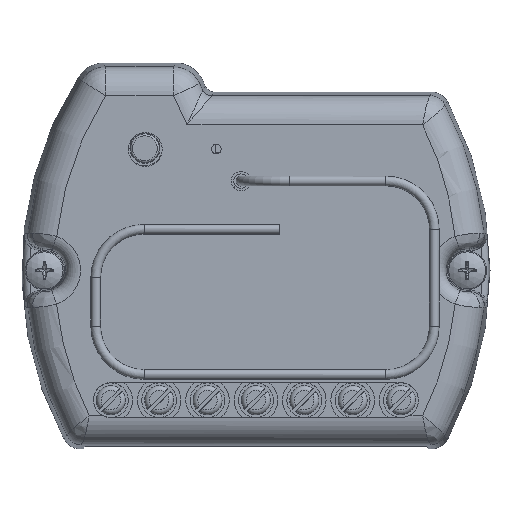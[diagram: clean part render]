
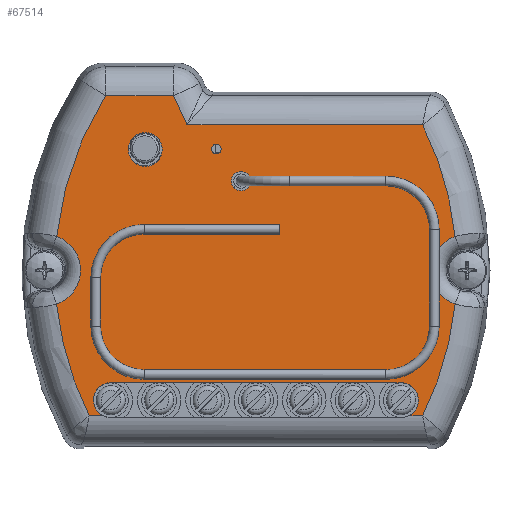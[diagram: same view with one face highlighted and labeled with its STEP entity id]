
A CAD part, top view. The second image highlights one B-rep face of the part: STEP entity #67514.
In plain terms, the highlighted planar face has unit normal (0, 0, 1).
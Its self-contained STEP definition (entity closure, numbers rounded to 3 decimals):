
#2509=FACE_BOUND('',#10419,.T.);
#2510=FACE_BOUND('',#10420,.T.);
#2511=FACE_BOUND('',#10421,.T.);
#4005=PLANE('',#73400);
#6246=FACE_OUTER_BOUND('',#10418,.T.);
#10418=EDGE_LOOP('',(#47617,#47618,#47619,#47620,#47621,#47622,#47623,#47624,
#47625,#47626,#47627,#47628,#47629,#47630));
#10419=EDGE_LOOP('',(#47631));
#10420=EDGE_LOOP('',(#47632));
#10421=EDGE_LOOP('',(#47633));
#15041=LINE('',#103530,#21457);
#15043=LINE('',#103568,#21459);
#15046=LINE('',#103580,#21462);
#15049=LINE('',#103648,#21465);
#15050=LINE('',#103652,#21466);
#15051=LINE('',#103656,#21467);
#21457=VECTOR('',#81087,10.);
#21459=VECTOR('',#81093,10.);
#21462=VECTOR('',#81108,10.);
#21465=VECTOR('',#81137,10.);
#21466=VECTOR('',#81140,10.);
#21467=VECTOR('',#81143,10.);
#27567=CIRCLE('',#73311,1.);
#27571=CIRCLE('',#73317,0.5);
#27606=CIRCLE('',#73395,33.582);
#27609=CIRCLE('',#73401,3.724);
#27610=CIRCLE('',#73402,33.582);
#27611=CIRCLE('',#73403,1.8);
#27612=CIRCLE('',#73404,1.8);
#27613=CIRCLE('',#73405,33.582);
#27614=CIRCLE('',#73406,3.724);
#27615=CIRCLE('',#73407,33.582);
#27616=CIRCLE('',#73408,1.75);
#30579=VERTEX_POINT('',#101679);
#30582=VERTEX_POINT('',#101689);
#30679=VERTEX_POINT('',#103518);
#30681=VERTEX_POINT('',#103529);
#30683=VERTEX_POINT('',#103566);
#30686=VERTEX_POINT('',#103578);
#30690=VERTEX_POINT('',#103618);
#30695=VERTEX_POINT('',#103643);
#30696=VERTEX_POINT('',#103645);
#30697=VERTEX_POINT('',#103647);
#30698=VERTEX_POINT('',#103649);
#30699=VERTEX_POINT('',#103651);
#30700=VERTEX_POINT('',#103653);
#30701=VERTEX_POINT('',#103655);
#30702=VERTEX_POINT('',#103657);
#30703=VERTEX_POINT('',#103659);
#30704=VERTEX_POINT('',#103662);
#36968=EDGE_CURVE('',#30579,#30579,#27567,.T.);
#36973=EDGE_CURVE('',#30582,#30582,#27571,.T.);
#37097=EDGE_CURVE('',#30679,#30681,#15041,.T.);
#37101=EDGE_CURVE('',#30683,#30679,#15043,.T.);
#37107=EDGE_CURVE('',#30686,#30683,#15046,.T.);
#37116=EDGE_CURVE('',#30690,#30686,#27606,.T.);
#37122=EDGE_CURVE('',#30695,#30690,#27609,.T.);
#37123=EDGE_CURVE('',#30696,#30695,#27610,.T.);
#37124=EDGE_CURVE('',#30697,#30696,#15049,.T.);
#37125=EDGE_CURVE('',#30697,#30698,#27611,.T.);
#37126=EDGE_CURVE('',#30698,#30699,#15050,.T.);
#37127=EDGE_CURVE('',#30699,#30700,#27612,.T.);
#37128=EDGE_CURVE('',#30701,#30700,#15051,.T.);
#37129=EDGE_CURVE('',#30702,#30701,#27613,.T.);
#37130=EDGE_CURVE('',#30703,#30702,#27614,.T.);
#37131=EDGE_CURVE('',#30681,#30703,#27615,.T.);
#37132=EDGE_CURVE('',#30704,#30704,#27616,.T.);
#47617=ORIENTED_EDGE('',*,*,#37107,.F.);
#47618=ORIENTED_EDGE('',*,*,#37116,.F.);
#47619=ORIENTED_EDGE('',*,*,#37122,.F.);
#47620=ORIENTED_EDGE('',*,*,#37123,.F.);
#47621=ORIENTED_EDGE('',*,*,#37124,.F.);
#47622=ORIENTED_EDGE('',*,*,#37125,.T.);
#47623=ORIENTED_EDGE('',*,*,#37126,.T.);
#47624=ORIENTED_EDGE('',*,*,#37127,.T.);
#47625=ORIENTED_EDGE('',*,*,#37128,.F.);
#47626=ORIENTED_EDGE('',*,*,#37129,.F.);
#47627=ORIENTED_EDGE('',*,*,#37130,.F.);
#47628=ORIENTED_EDGE('',*,*,#37131,.F.);
#47629=ORIENTED_EDGE('',*,*,#37097,.F.);
#47630=ORIENTED_EDGE('',*,*,#37101,.F.);
#47631=ORIENTED_EDGE('',*,*,#36968,.T.);
#47632=ORIENTED_EDGE('',*,*,#36973,.T.);
#47633=ORIENTED_EDGE('',*,*,#37132,.T.);
#67514=ADVANCED_FACE('',(#6246,#2509,#2510,#2511),#4005,.T.);
#73311=AXIS2_PLACEMENT_3D('',#101680,#80884,#80885);
#73317=AXIS2_PLACEMENT_3D('',#101690,#80897,#80898);
#73395=AXIS2_PLACEMENT_3D('',#103624,#81120,#81121);
#73400=AXIS2_PLACEMENT_3D('',#103642,#81131,#81132);
#73401=AXIS2_PLACEMENT_3D('',#103644,#81133,#81134);
#73402=AXIS2_PLACEMENT_3D('',#103646,#81135,#81136);
#73403=AXIS2_PLACEMENT_3D('',#103650,#81138,#81139);
#73404=AXIS2_PLACEMENT_3D('',#103654,#81141,#81142);
#73405=AXIS2_PLACEMENT_3D('',#103658,#81144,#81145);
#73406=AXIS2_PLACEMENT_3D('',#103660,#81146,#81147);
#73407=AXIS2_PLACEMENT_3D('',#103661,#81148,#81149);
#73408=AXIS2_PLACEMENT_3D('',#103663,#81150,#81151);
#80884=DIRECTION('center_axis',(0.,0.,-1.));
#80885=DIRECTION('ref_axis',(-1.,0.,0.));
#80897=DIRECTION('center_axis',(0.,0.,-1.));
#80898=DIRECTION('ref_axis',(-1.,0.,0.));
#81087=DIRECTION('',(1.,0.,0.));
#81093=DIRECTION('',(0.423,-0.906,0.));
#81108=DIRECTION('',(1.,0.,0.));
#81120=DIRECTION('center_axis',(0.,0.,-1.));
#81121=DIRECTION('ref_axis',(-0.962,0.272,0.));
#81131=DIRECTION('center_axis',(0.,0.,1.));
#81132=DIRECTION('ref_axis',(1.,0.,0.));
#81133=DIRECTION('center_axis',(0.,0.,1.));
#81134=DIRECTION('ref_axis',(1.,0.,0.));
#81135=DIRECTION('center_axis',(0.,0.,-1.));
#81136=DIRECTION('ref_axis',(-0.962,-0.272,0.));
#81137=DIRECTION('',(-1.,0.,0.));
#81138=DIRECTION('center_axis',(0.,0.,-1.));
#81139=DIRECTION('ref_axis',(-1.,0.,0.));
#81140=DIRECTION('',(1.,0.,0.));
#81141=DIRECTION('center_axis',(0.,0.,-1.));
#81142=DIRECTION('ref_axis',(-1.,0.,0.));
#81143=DIRECTION('',(-1.,0.,0.));
#81144=DIRECTION('center_axis',(0.,0.,-1.));
#81145=DIRECTION('ref_axis',(0.962,-0.272,0.));
#81146=DIRECTION('center_axis',(0.,0.,1.));
#81147=DIRECTION('ref_axis',(-1.,0.,0.));
#81148=DIRECTION('center_axis',(0.,0.,-1.));
#81149=DIRECTION('ref_axis',(0.962,0.272,0.));
#81150=DIRECTION('center_axis',(0.,0.,-1.));
#81151=DIRECTION('ref_axis',(1.,0.,0.));
#101679=CARTESIAN_POINT('',(-0.554,9.221,12.5));
#101680=CARTESIAN_POINT('Origin',(-1.554,9.221,12.5));
#101689=CARTESIAN_POINT('',(-3.585,12.527,12.5));
#101690=CARTESIAN_POINT('Origin',(-4.085,12.527,12.5));
#103518=CARTESIAN_POINT('',(-7.126,15.032,12.5));
#103529=CARTESIAN_POINT('',(17.23,15.032,12.5));
#103530=CARTESIAN_POINT('',(-9.047,15.032,12.5));
#103566=CARTESIAN_POINT('',(-8.525,18.032,12.5));
#103568=CARTESIAN_POINT('',(-9.516,20.156,12.5));
#103578=CARTESIAN_POINT('',(-15.53,18.032,12.5));
#103580=CARTESIAN_POINT('',(-14.761,18.032,12.5));
#103618=CARTESIAN_POINT('',(-20.599,3.508,12.5));
#103624=CARTESIAN_POINT('Origin',(12.8,0.,12.5));
#103642=CARTESIAN_POINT('Origin',(-12.174,19.1,12.5));
#103643=CARTESIAN_POINT('',(-20.599,-3.508,12.5));
#103644=CARTESIAN_POINT('Origin',(-21.85,0.,
12.5));
#103645=CARTESIAN_POINT('',(-17.23,-15.032,12.5));
#103646=CARTESIAN_POINT('Origin',(12.8,0.,12.5));
#103647=CARTESIAN_POINT('',(-15.807,-15.032,12.5));
#103648=CARTESIAN_POINT('',(9.047,-15.032,12.5));
#103649=CARTESIAN_POINT('',(-15.,-11.623,12.5));
#103650=CARTESIAN_POINT('Origin',(-15.,-13.423,12.5));
#103651=CARTESIAN_POINT('',(15.,-11.623,12.5));
#103652=CARTESIAN_POINT('',(7.5,-11.623,12.5));
#103653=CARTESIAN_POINT('',(15.807,-15.032,12.5));
#103654=CARTESIAN_POINT('Origin',(15.,-13.423,12.5));
#103655=CARTESIAN_POINT('',(17.23,-15.032,12.5));
#103656=CARTESIAN_POINT('',(9.047,-15.032,12.5));
#103657=CARTESIAN_POINT('',(20.599,-3.508,12.5));
#103658=CARTESIAN_POINT('Origin',(-12.8,0.,12.5));
#103659=CARTESIAN_POINT('',(20.599,3.508,12.5));
#103660=CARTESIAN_POINT('Origin',(21.85,0.,12.5));
#103661=CARTESIAN_POINT('Origin',(-12.8,0.,12.5));
#103662=CARTESIAN_POINT('',(-13.184,12.491,12.5));
#103663=CARTESIAN_POINT('Origin',(-11.434,12.491,12.5));
